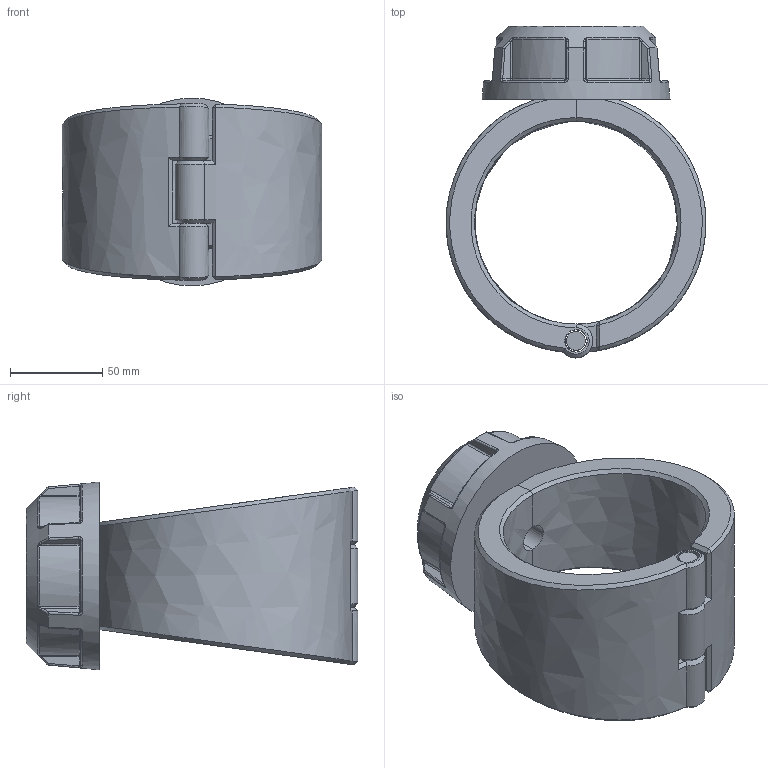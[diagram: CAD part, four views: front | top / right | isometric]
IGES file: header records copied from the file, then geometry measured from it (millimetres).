
Global section: file name: 163000110010; native system: Autodesk Inventor 2019; preprocessor: unknown; author: comp2; date: 20220203.114751; units: millimetre
Bounding box: 141 x 180 x 101.96 mm (x, y, z)
Volume: 683760.5 mm3; surface area: 110988.6 mm2
Topology: 4 solids, 4 shells, 203 faces, 486 edges, 293 vertices
Faces by surface type: bspline 203
